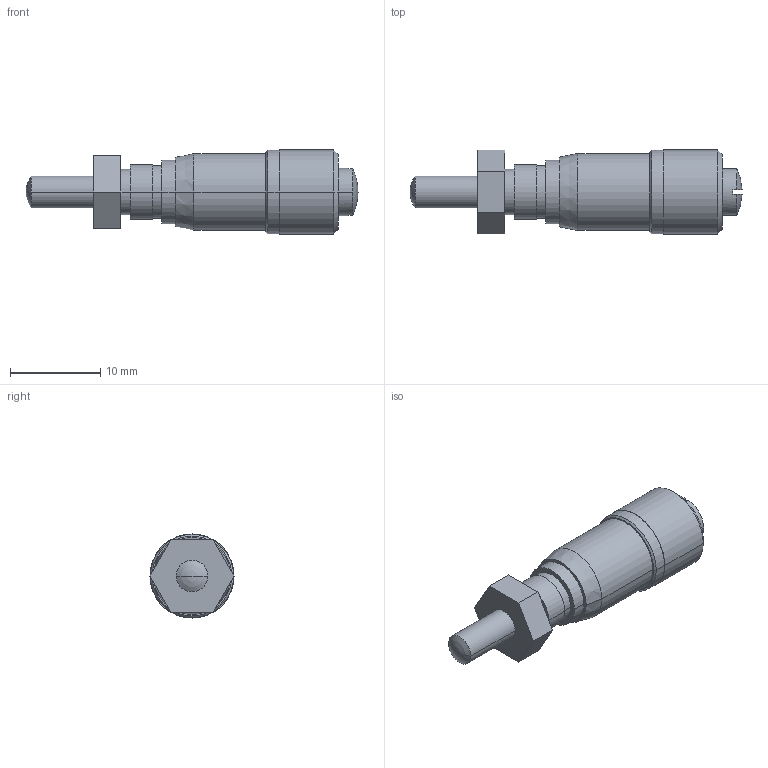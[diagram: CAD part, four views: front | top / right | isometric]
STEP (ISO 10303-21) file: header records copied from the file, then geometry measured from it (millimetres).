
FILE_DESCRIPTION(('Creo Elements/Direct Modeling STEP Export'),'2;1');
FILE_NAME('148-243_MHT4-6.5FP.stp','2014-02-06T18:32:27',(''),(''),'Creo Elements/Direct Modeling STEP processor for AP214 (Solid Model)','Creo Elements/Direct Modeling 18.1B 29-Sep-2012 (C) Parametric Technology GmbH','');
FILE_SCHEMA(('AUTOMOTIVE_DESIGN { 1 0 10303 214 1 1 1 1 }'));
Length unit declared in the file: millimetre
Products named in the file (1): 148-243_MHT4-6.5FP
Bounding box: 36.69 x 9.3 x 9.3 mm (x, y, z)
Volume: 1542.7 mm3; surface area: 997 mm2
Topology: 1 solids, 1 shells, 46 faces, 100 edges, 63 vertices
Faces by surface type: cylinder 18, plane 18, cone 6, sphere 4
Entity records: 1148 total; most frequent: ORIENTED_EDGE 196, DIRECTION 190, CARTESIAN_POINT 182, EDGE_CURVE 98, AXIS2_PLACEMENT_3D 71, VERTEX_POINT 63, EDGE_LOOP 55, VECTOR 48
